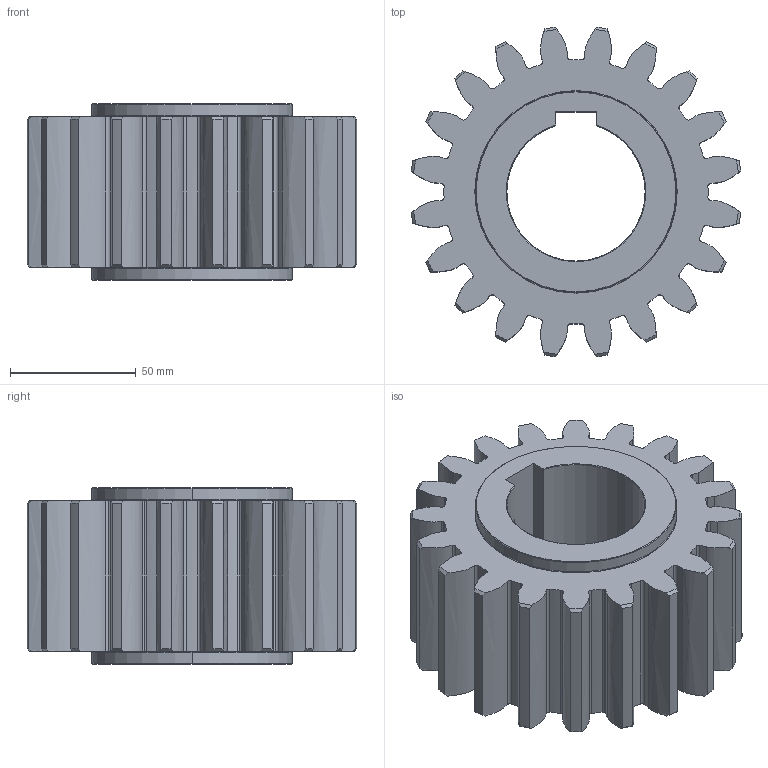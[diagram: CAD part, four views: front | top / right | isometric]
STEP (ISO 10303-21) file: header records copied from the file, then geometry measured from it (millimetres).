
FILE_DESCRIPTION (( 'STEP AP214' ), '1' );
FILE_NAME ('1SG__S060020S.STEP', '2021-08-03T07:55:00', ( '' ), ( '' ), 'SwSTEP 2.0', 'SolidWorks 2021', '' );
FILE_SCHEMA (( 'AUTOMOTIVE_DESIGN' ));
Length unit declared in the file: millimetre
Products named in the file (1): 1SG__S060020S
Bounding box: 130.96 x 130.96 x 70 mm (x, y, z)
Volume: 541204.5 mm3; surface area: 78434 mm2
Topology: 1 solids, 1 shells, 218 faces, 670 edges, 456 vertices
Faces by surface type: cylinder 77, bspline 60, cone 50, plane 27, torus 4
Entity records: 13852 total; most frequent: CARTESIAN_POINT 8057, ORIENTED_EDGE 1340, DIRECTION 1076, EDGE_CURVE 670, VERTEX_POINT 456, AXIS2_PLACEMENT_3D 411, VECTOR 254, LINE 254
